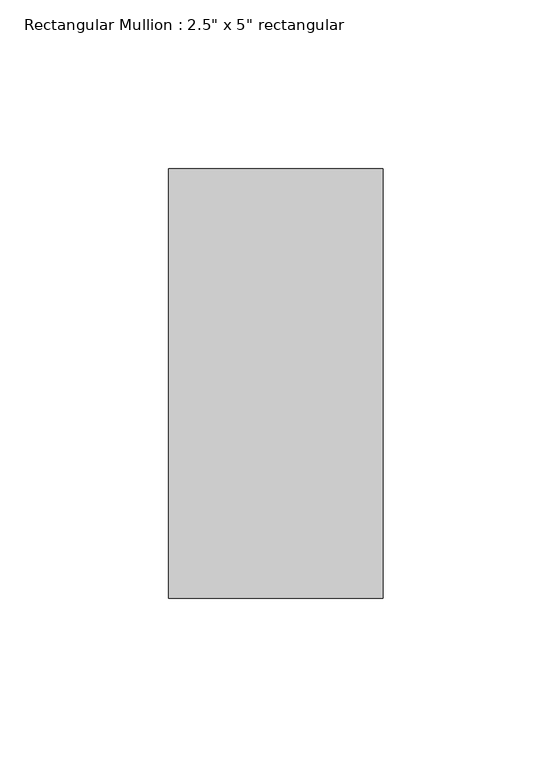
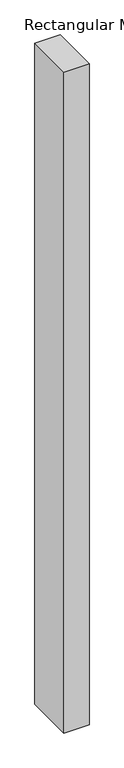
"""IFC4 building model written with IfcOpenShell, lengths in millimetres: member geometry."""

from ifc_helpers import new_model, si_unit, frame, origin, place, context, project, spatial, polyline, outline, extrude, source, transform, mapped, element, save


def member_9764dd38(model_context):
    return source(origin(), model_context, "Body", "SweptSolid", [
        extrude(outline(polyline([(31.75, 63.5), (31.75, -63.5), (-31.75, -63.5), (-31.75, 63.5), (31.75, 63.5)])), frame((0.0, 0.0, -1765.3), z_axis=(0.0, 0.0, 1.0), x_axis=(1.0, 0.0, 0.0)), (0.0, 0.0, 1.0), 1765.3),
    ])


if __name__ == "__main__":
    model = new_model("IFC4")
    model_context = context("Model", 3, world=origin())
    ifc_project = project(units=[si_unit("LENGTHUNIT", "METRE", prefix="MILLI")], contexts=[model_context])
    site = spatial("IfcSite", under=ifc_project)
    building = spatial("IfcBuilding", under=site)
    placement = place(None, origin())
    member_shape = member_9764dd38(model_context)
    element("IfcMember", 1, ObjectType="Rectangular Mullion : 2.5\" x 5\" rectangular", at=placement, inside=building, context=model_context, shape_type="MappedRepresentation", body=[
        mapped(member_shape, transform((0.0, 0.0, 0.0), x_axis=(1.0, 0.0, 0.0), y_axis=(0.0, 1.0, 0.0), z_axis=(0.0, 0.0, 1.0))),
    ])
    save(model, "model.ifc")
